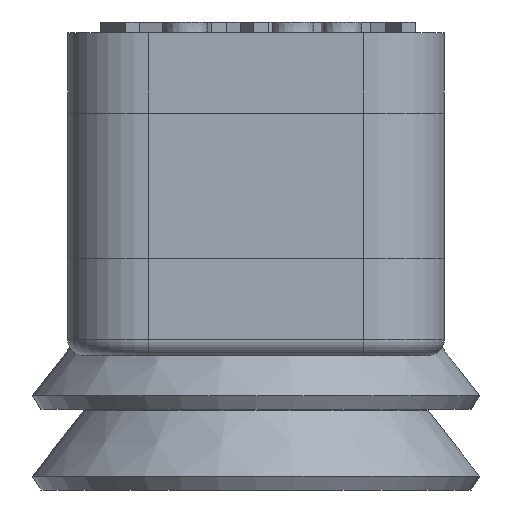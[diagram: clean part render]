
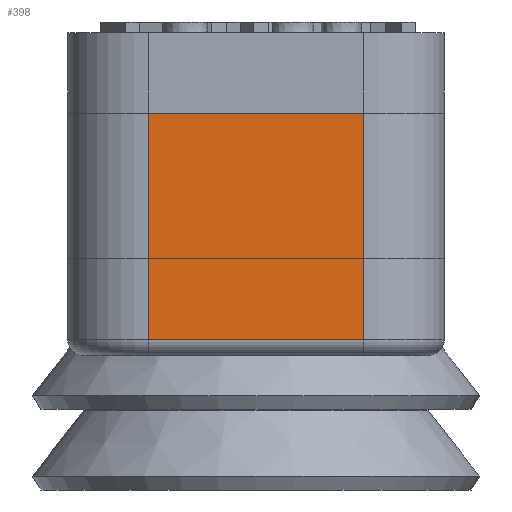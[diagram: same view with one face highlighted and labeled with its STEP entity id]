
A CAD part, left-side view. The second image highlights one B-rep face of the part: STEP entity #398.
In plain terms, the highlighted planar face has unit normal (-1, 0, 0).
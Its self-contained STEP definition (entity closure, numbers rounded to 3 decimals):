
#398 = ADVANCED_FACE( '', ( #829 ), #830, .T. );
#829 = FACE_OUTER_BOUND( '', #1344, .T. );
#830 = PLANE( '', #1345 );
#1344 = EDGE_LOOP( '', ( #2744, #2745, #2746, #2747 ) );
#1345 = AXIS2_PLACEMENT_3D( '', #2748, #2749, #2750 );
#2744 = ORIENTED_EDGE( '', *, *, #3311, .F. );
#2745 = ORIENTED_EDGE( '', *, *, #3251, .T. );
#2746 = ORIENTED_EDGE( '', *, *, #3136, .T. );
#2747 = ORIENTED_EDGE( '', *, *, #3278, .F. );
#2748 = CARTESIAN_POINT( '', ( -15., 2., -4.5 ) );
#2749 = DIRECTION( '', ( -1., 0., 0. ) );
#2750 = DIRECTION( '', ( 0., 0., 1. ) );
#3136 = EDGE_CURVE( '', #3617, #3734, #3735, .T. );
#3251 = EDGE_CURVE( '', #3896, #3617, #3897, .T. );
#3278 = EDGE_CURVE( '', #3931, #3734, #3933, .T. );
#3311 = EDGE_CURVE( '', #3896, #3931, #3975, .T. );
#3617 = VERTEX_POINT( '', #4531 );
#3734 = VERTEX_POINT( '', #4862 );
#3735 = LINE( '', #4863, #4864 );
#3896 = VERTEX_POINT( '', #5323 );
#3897 = LINE( '', #5324, #5325 );
#3931 = VERTEX_POINT( '', #5452 );
#3933 = LINE( '', #5454, #5455 );
#3975 = LINE( '', #5538, #5539 );
#4531 = CARTESIAN_POINT( '', ( -15., -2., -4.2 ) );
#4862 = CARTESIAN_POINT( '', ( -15., -2., 0. ) );
#4863 = CARTESIAN_POINT( '', ( -15., -2., -4.5 ) );
#4864 = VECTOR( '', #5820, 1000. );
#5323 = CARTESIAN_POINT( '', ( -15., 2., -4.2 ) );
#5324 = CARTESIAN_POINT( '', ( -15., -2., -4.2 ) );
#5325 = VECTOR( '', #5888, 1000. );
#5452 = CARTESIAN_POINT( '', ( -15., 2., 0. ) );
#5454 = CARTESIAN_POINT( '', ( -15., 2., 0. ) );
#5455 = VECTOR( '', #5899, 1000. );
#5538 = CARTESIAN_POINT( '', ( -15., 2., -4.5 ) );
#5539 = VECTOR( '', #5913, 1000. );
#5820 = DIRECTION( '', ( 0., 0., 1. ) );
#5888 = DIRECTION( '', ( 0., -1., 0. ) );
#5899 = DIRECTION( '', ( 0., -1., 0. ) );
#5913 = DIRECTION( '', ( 0., 0., 1. ) );
